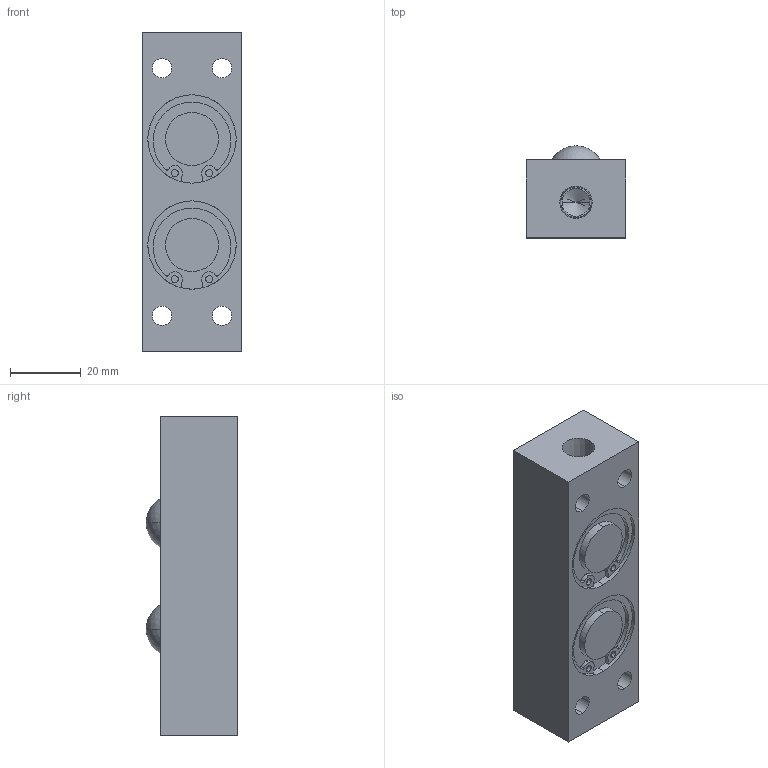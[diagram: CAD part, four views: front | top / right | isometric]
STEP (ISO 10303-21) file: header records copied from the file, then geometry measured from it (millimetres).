
FILE_DESCRIPTION (( 'STEP AP203' ), '1' );
FILE_NAME ('PVL17S-2.STEP', '2015-12-24T06:29:27', ( '' ), ( '' ), 'SwSTEP 2.0', 'SolidWorks 2013', '' );
FILE_SCHEMA (( 'CONFIG_CONTROL_DESIGN' ));
Length unit declared in the file: millimetre
Products named in the file (1): PVL17S-2
Bounding box: 28 x 26 x 90 mm (x, y, z)
Volume: 51342.9 mm3; surface area: 14167.5 mm2
Topology: 1 solids, 1 shells, 95 faces, 222 edges, 147 vertices
Faces by surface type: cylinder 58, plane 29, sphere 4, cone 4
Entity records: 2867 total; most frequent: DIRECTION 544, CARTESIAN_POINT 463, ORIENTED_EDGE 440, AXIS2_PLACEMENT_3D 228, EDGE_CURVE 220, VERTEX_POINT 147, CIRCLE 132, EDGE_LOOP 123
